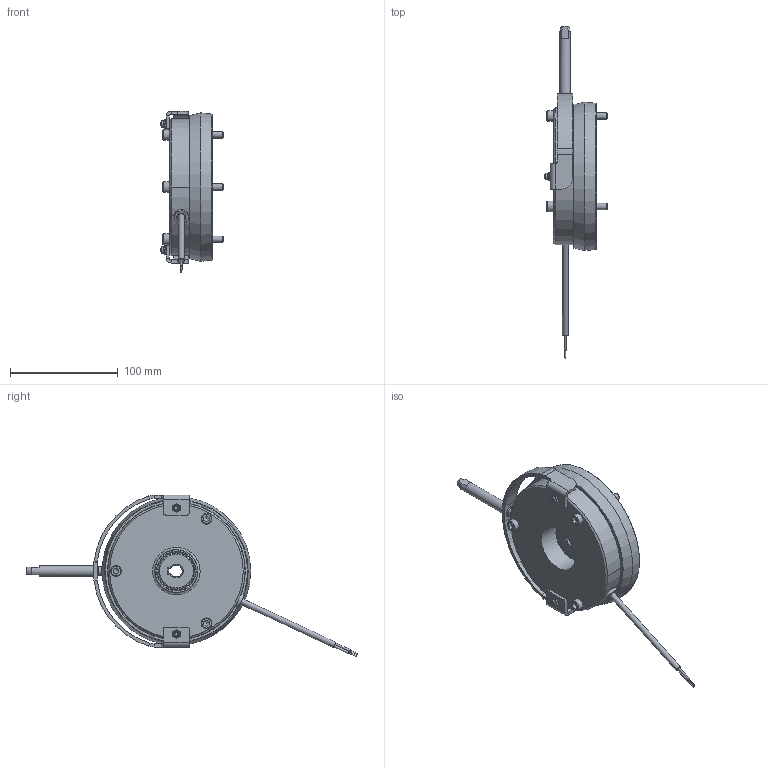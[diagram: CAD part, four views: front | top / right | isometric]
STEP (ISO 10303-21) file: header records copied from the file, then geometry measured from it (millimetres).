
FILE_DESCRIPTION(/* description */ (''),/* implementation_level */ '2;1');
FILE_NAME(/* name */ 'C:\SapWorkDir\Inventor\IP1\ConvertTempPath\5029486_IPT_000.ipt.stp',/* time_stamp */ '2021-04-21T07:58:48+02:00',/* author */ ('WOELK'),/* organization */ (''),/* preprocessor_version */ 'ST-DEVELOPER v17',/* originating_system */ 'Autodesk Inventor 2018',/* authorisation */ '');
FILE_SCHEMA (('AUTOMOTIVE_DESIGN { 1 0 10303 214 3 1 1 }'));
Products named in the file (1): 5029486
Bounding box: 58.15 x 307.93 x 150.17 mm (x, y, z)
Volume: 445456.7 mm3; surface area: 141341.9 mm2
Topology: 2 solids, 2 shells, 2074 faces, 6148 edges, 3959 vertices
Faces by surface type: cylinder 869, plane 489, bspline 344, torus 253, cone 119
Full cylindrical faces by diameter (mm): 1 x2, 1.85 x2, 3.621 x2, 4 x4, 4.3 x1, 5 x3, 5.3 x1, 5.5 x3, 5.9 x4, 6 x3, 6.15 x3, 6.4 x3, 6.6 x7, 8 x1, 8.917 x3, 10 x7, 10.4 x3, 12 x4, 13.2 x1, 38.3 x1, 44 x2, 52 x1, 65.7 x2, 66.1 x2, 95 x1, 127 x1
Entity records: 85466 total; most frequent: CARTESIAN_POINT 29765, ORIENTED_EDGE 12288, DIRECTION 10435, EDGE_CURVE 6144, AXIS2_PLACEMENT_3D 4225, VERTEX_POINT 3959, CIRCLE 2494, EDGE_LOOP 2167
